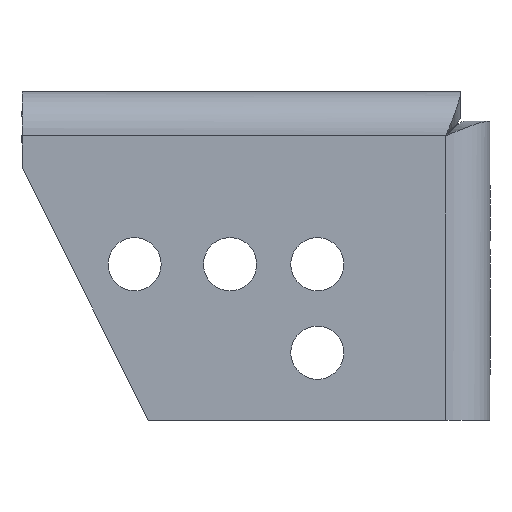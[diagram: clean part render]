
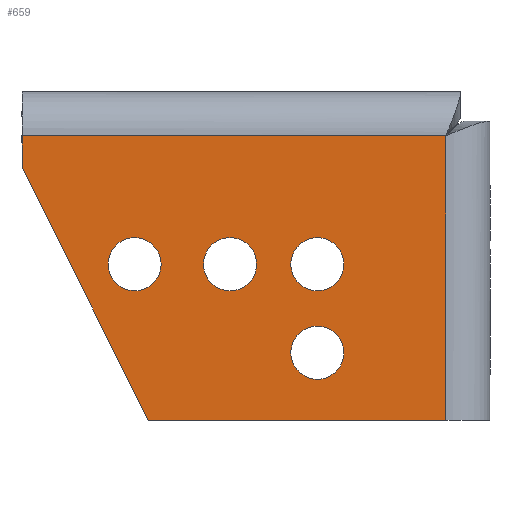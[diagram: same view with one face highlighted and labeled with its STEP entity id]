
A CAD part, front view. The second image highlights one B-rep face of the part: STEP entity #659.
In plain terms, the highlighted planar face has unit normal (0, -1, 0).
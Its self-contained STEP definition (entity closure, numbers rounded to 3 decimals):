
#16 = CARTESIAN_POINT ( 'NONE',  ( 15., -34.5, -3.5 ) ) ;
#19 = CARTESIAN_POINT ( 'NONE',  ( 15., -34.5, -26. ) ) ;
#34 = CARTESIAN_POINT ( 'NONE',  ( -7.5, -34.5, -13.65 ) ) ;
#38 = CARTESIAN_POINT ( 'NONE',  ( 6.95, -34.5, -20.65 ) ) ;
#39 = CARTESIAN_POINT ( 'NONE',  ( 0.05, -34.5, -13.65 ) ) ;
#52 = CARTESIAN_POINT ( 'NONE',  ( 2.75, -34.5, -20.65 ) ) ;
#75 = CARTESIAN_POINT ( 'NONE',  ( -8.5, -34.5, -26. ) ) ;
#79 = CARTESIAN_POINT ( 'NONE',  ( 6.95, -34.5, -13.65 ) ) ;
#98 = CARTESIAN_POINT ( 'NONE',  ( -4.15, -34.5, -13.65 ) ) ;
#122 = CARTESIAN_POINT ( 'NONE',  ( -18.5, -34.5, -6. ) ) ;
#139 = CARTESIAN_POINT ( 'NONE',  ( 2.75, -34.5, -13.65 ) ) ;
#222 = CARTESIAN_POINT ( 'NONE',  ( -9.6, -34.5, -13.65 ) ) ;
#223 = DIRECTION ( 'NONE',  ( 0., 1., 0. ) ) ;
#224 = DIRECTION ( 'NONE',  ( 0., 0., 1. ) ) ;
#226 = DIRECTION ( 'NONE',  ( 0., 0., 1. ) ) ;
#260 = CARTESIAN_POINT ( 'NONE',  ( -2.05, -34.5, -13.65 ) ) ;
#261 = DIRECTION ( 'NONE',  ( 0., 1., 0. ) ) ;
#262 = DIRECTION ( 'NONE',  ( 0., 0., 1. ) ) ;
#282 = DIRECTION ( 'NONE',  ( -1., 0., 0. ) ) ;
#283 = CARTESIAN_POINT ( 'NONE',  ( -18.5, -34.5, 0. ) ) ;
#284 = DIRECTION ( 'NONE',  ( 0., 0., -1. ) ) ;
#642 = CARTESIAN_POINT ( 'NONE',  ( 18.5, -34.5, -26. ) ) ;
#643 = DIRECTION ( 'NONE',  ( -1., 0., 0. ) ) ;
#659 = ADVANCED_FACE ( 'NONE', ( #2839, #2835, #2838, #2836, #2837 ), #2030, .F. ) ;
#806 = AXIS2_PLACEMENT_3D ( 'NONE', #2029, #2038, #2027 ) ;
#851 = AXIS2_PLACEMENT_3D ( 'NONE', #3137, #3138, #3139 ) ;
#852 = AXIS2_PLACEMENT_3D ( 'NONE', #3140, #3141, #3142 ) ;
#853 = AXIS2_PLACEMENT_3D ( 'NONE', #3145, #3146, #3147 ) ;
#854 = AXIS2_PLACEMENT_3D ( 'NONE', #3150, #3151, #3152 ) ;
#914 = EDGE_CURVE ( 'NONE', #2984, #1769, #2649, .T. ) ;
#918 = AXIS2_PLACEMENT_3D ( 'NONE', #222, #223, #224 ) ;
#959 = EDGE_CURVE ( 'NONE', #3030, #3091, #2618, .T. ) ;
#977 = EDGE_CURVE ( 'NONE', #2990, #3049, #2596, .T. ) ;
#995 = EDGE_CURVE ( 'NONE', #2989, #3003, #2585, .T. ) ;
#1032 = EDGE_CURVE ( 'NONE', #3003, #2989, #2507, .T. ) ;
#1033 = EDGE_CURVE ( 'NONE', #3091, #3030, #2505, .T. ) ;
#1034 = EDGE_CURVE ( 'NONE', #3049, #2990, #2504, .T. ) ;
#1035 = EDGE_CURVE ( 'NONE', #1769, #2984, #2503, .T. ) ;
#1036 = EDGE_CURVE ( 'NONE', #3074, #3026, #2502, .T. ) ;
#1037 = EDGE_CURVE ( 'NONE', #1784, #1781, #2509, .T. ) ;
#1038 = EDGE_CURVE ( 'NONE', #1781, #1764, #2495, .T. ) ;
#1039 = EDGE_CURVE ( 'NONE', #1764, #3074, #2493, .T. ) ;
#1139 = EDGE_CURVE ( 'NONE', #1784, #3026, #2358, .T. ) ;
#1185 = AXIS2_PLACEMENT_3D ( 'NONE', #3204, #1786, #226 ) ;
#1192 = AXIS2_PLACEMENT_3D ( 'NONE', #260, #261, #262 ) ;
#1196 = AXIS2_PLACEMENT_3D ( 'NONE', #2928, #2929, #2930 ) ;
#1693 = ORIENTED_EDGE ( 'NONE', *, *, #1032, .T. ) ;
#1694 = ORIENTED_EDGE ( 'NONE', *, *, #995, .T. ) ;
#1695 = ORIENTED_EDGE ( 'NONE', *, *, #1033, .T. ) ;
#1696 = ORIENTED_EDGE ( 'NONE', *, *, #959, .T. ) ;
#1697 = ORIENTED_EDGE ( 'NONE', *, *, #1034, .T. ) ;
#1698 = ORIENTED_EDGE ( 'NONE', *, *, #977, .T. ) ;
#1699 = ORIENTED_EDGE ( 'NONE', *, *, #1035, .T. ) ;
#1700 = ORIENTED_EDGE ( 'NONE', *, *, #914, .T. ) ;
#1701 = ORIENTED_EDGE ( 'NONE', *, *, #1036, .T. ) ;
#1703 = ORIENTED_EDGE ( 'NONE', *, *, #1139, .F. ) ;
#1704 = ORIENTED_EDGE ( 'NONE', *, *, #1037, .T. ) ;
#1705 = ORIENTED_EDGE ( 'NONE', *, *, #1038, .T. ) ;
#1706 = ORIENTED_EDGE ( 'NONE', *, *, #1039, .T. ) ;
#1764 = VERTEX_POINT ( 'NONE', #3309 ) ;
#1769 = VERTEX_POINT ( 'NONE', #3314 ) ;
#1781 = VERTEX_POINT ( 'NONE', #16 ) ;
#1784 = VERTEX_POINT ( 'NONE', #19 ) ;
#1786 = DIRECTION ( 'NONE',  ( 0., 1., 0. ) ) ;
#2027 = DIRECTION ( 'NONE',  ( 0., 0., 1. ) ) ;
#2029 = CARTESIAN_POINT ( 'NONE',  ( 18.5, -34.5, 0. ) ) ;
#2030 = PLANE ( 'NONE',  #806 ) ;
#2038 = DIRECTION ( 'NONE',  ( 0., 1., 0. ) ) ;
#2356 = VECTOR ( 'NONE', #643, 1000. ) ;
#2358 = LINE ( 'NONE', #642, #2356 ) ;
#2490 = VECTOR ( 'NONE', #284, 1000. ) ;
#2492 = VECTOR ( 'NONE', #282, 1000. ) ;
#2493 = LINE ( 'NONE', #283, #2490 ) ;
#2494 = VECTOR ( 'NONE', #3154, 1000. ) ;
#2495 = LINE ( 'NONE', #3155, #2492 ) ;
#2496 = VECTOR ( 'NONE', #3144, 1000. ) ;
#2502 = LINE ( 'NONE', #3143, #2496 ) ;
#2503 = CIRCLE ( 'NONE', #854, 2.1 ) ;
#2504 = CIRCLE ( 'NONE', #853, 2.1 ) ;
#2505 = CIRCLE ( 'NONE', #852, 2.1 ) ;
#2507 = CIRCLE ( 'NONE', #851, 2.1 ) ;
#2509 = LINE ( 'NONE', #3149, #2494 ) ;
#2585 = CIRCLE ( 'NONE', #1196, 2.1 ) ;
#2596 = CIRCLE ( 'NONE', #1192, 2.1 ) ;
#2618 = CIRCLE ( 'NONE', #1185, 2.1 ) ;
#2649 = CIRCLE ( 'NONE', #918, 2.1 ) ;
#2835 = FACE_BOUND ( 'NONE', #2871, .T. ) ;
#2836 = FACE_BOUND ( 'NONE', #2870, .T. ) ;
#2837 = FACE_OUTER_BOUND ( 'NONE', #2872, .T. ) ;
#2838 = FACE_BOUND ( 'NONE', #2873, .T. ) ;
#2839 = FACE_BOUND ( 'NONE', #2861, .T. ) ;
#2861 = EDGE_LOOP ( 'NONE', ( #1693, #1694 ) ) ;
#2870 = EDGE_LOOP ( 'NONE', ( #1699, #1700 ) ) ;
#2871 = EDGE_LOOP ( 'NONE', ( #1695, #1696 ) ) ;
#2872 = EDGE_LOOP ( 'NONE', ( #1701, #1703, #1704, #1705, #1706 ) ) ;
#2873 = EDGE_LOOP ( 'NONE', ( #1697, #1698 ) ) ;
#2928 = CARTESIAN_POINT ( 'NONE',  ( 4.85, -34.5, -20.65 ) ) ;
#2929 = DIRECTION ( 'NONE',  ( 0., 1., 0. ) ) ;
#2930 = DIRECTION ( 'NONE',  ( 0., 0., 1. ) ) ;
#2984 = VERTEX_POINT ( 'NONE', #34 ) ;
#2989 = VERTEX_POINT ( 'NONE', #38 ) ;
#2990 = VERTEX_POINT ( 'NONE', #39 ) ;
#3003 = VERTEX_POINT ( 'NONE', #52 ) ;
#3026 = VERTEX_POINT ( 'NONE', #75 ) ;
#3030 = VERTEX_POINT ( 'NONE', #79 ) ;
#3049 = VERTEX_POINT ( 'NONE', #98 ) ;
#3074 = VERTEX_POINT ( 'NONE', #122 ) ;
#3091 = VERTEX_POINT ( 'NONE', #139 ) ;
#3137 = CARTESIAN_POINT ( 'NONE',  ( 4.85, -34.5, -20.65 ) ) ;
#3138 = DIRECTION ( 'NONE',  ( 0., 1., 0. ) ) ;
#3139 = DIRECTION ( 'NONE',  ( 0., 0., 1. ) ) ;
#3140 = CARTESIAN_POINT ( 'NONE',  ( 4.85, -34.5, -13.65 ) ) ;
#3141 = DIRECTION ( 'NONE',  ( 0., 1., 0. ) ) ;
#3142 = DIRECTION ( 'NONE',  ( 0., 0., 1. ) ) ;
#3143 = CARTESIAN_POINT ( 'NONE',  ( -13.5, -34.5, -16. ) ) ;
#3144 = DIRECTION ( 'NONE',  ( 0.447, 0., -0.894 ) ) ;
#3145 = CARTESIAN_POINT ( 'NONE',  ( -2.05, -34.5, -13.65 ) ) ;
#3146 = DIRECTION ( 'NONE',  ( 0., 1., 0. ) ) ;
#3147 = DIRECTION ( 'NONE',  ( 0., 0., 1. ) ) ;
#3149 = CARTESIAN_POINT ( 'NONE',  ( 15., -34.5, -26. ) ) ;
#3150 = CARTESIAN_POINT ( 'NONE',  ( -9.6, -34.5, -13.65 ) ) ;
#3151 = DIRECTION ( 'NONE',  ( 0., 1., 0. ) ) ;
#3152 = DIRECTION ( 'NONE',  ( 0., 0., 1. ) ) ;
#3154 = DIRECTION ( 'NONE',  ( 0., 0., 1. ) ) ;
#3155 = CARTESIAN_POINT ( 'NONE',  ( 18.5, -34.5, -3.5 ) ) ;
#3204 = CARTESIAN_POINT ( 'NONE',  ( 4.85, -34.5, -13.65 ) ) ;
#3309 = CARTESIAN_POINT ( 'NONE',  ( -18.5, -34.5, -3.5 ) ) ;
#3314 = CARTESIAN_POINT ( 'NONE',  ( -11.7, -34.5, -13.65 ) ) ;
